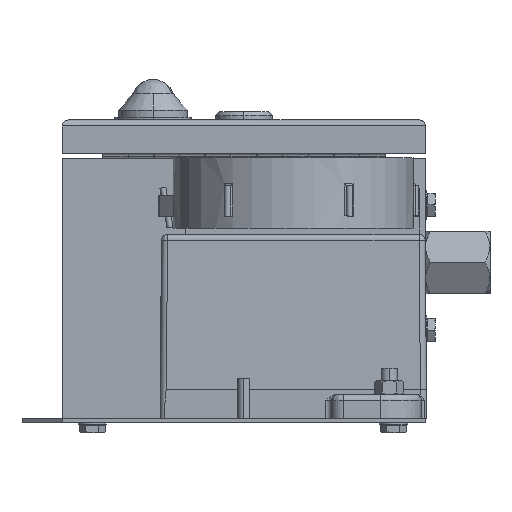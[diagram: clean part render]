
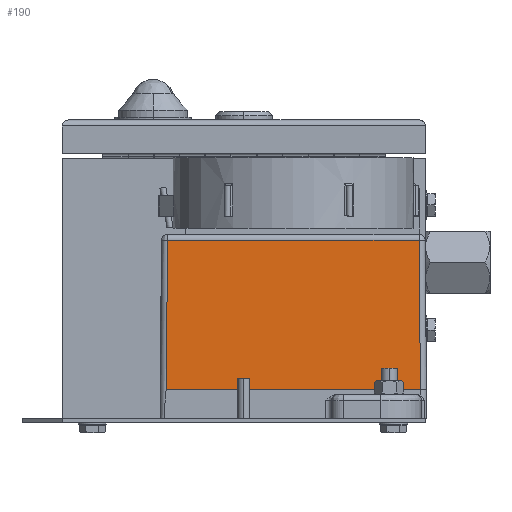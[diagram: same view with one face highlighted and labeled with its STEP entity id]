
A CAD part, left-side view. The second image highlights one B-rep face of the part: STEP entity #190.
In plain terms, the highlighted planar face has unit normal (-1, 0, 0.009).
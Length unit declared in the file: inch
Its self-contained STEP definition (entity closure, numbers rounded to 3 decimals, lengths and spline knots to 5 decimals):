
#190 = ADVANCED_FACE ( 'NONE', ( #6014 ), #7218, .T. ) ;
#513 = EDGE_CURVE ( 'NONE', #6301, #6302, #9156, .T. ) ;
#536 = EDGE_CURVE ( 'NONE', #6301, #6287, #9185, .T. ) ;
#538 = EDGE_CURVE ( 'NONE', #6311, #6302, #9180, .T. ) ;
#539 = EDGE_CURVE ( 'NONE', #6311, #6287, #9190, .T. ) ;
#1701 = ORIENTED_EDGE ( 'NONE', *, *, #539, .T. ) ;
#1702 = ORIENTED_EDGE ( 'NONE', *, *, #536, .F. ) ;
#1703 = ORIENTED_EDGE ( 'NONE', *, *, #513, .T. ) ;
#1704 = ORIENTED_EDGE ( 'NONE', *, *, #538, .F. ) ;
#4202 = AXIS2_PLACEMENT_3D ( 'NONE', #7215, #7221, #7222 ) ;
#5352 = EDGE_LOOP ( 'NONE', ( #1701, #1702, #1703, #1704 ) ) ;
#6014 = FACE_OUTER_BOUND ( 'NONE', #5352, .T. ) ;
#6287 = VERTEX_POINT ( 'NONE', #16772 ) ;
#6301 = VERTEX_POINT ( 'NONE', #16786 ) ;
#6302 = VERTEX_POINT ( 'NONE', #16787 ) ;
#6311 = VERTEX_POINT ( 'NONE', #16796 ) ;
#7215 = CARTESIAN_POINT ( 'NONE',  ( -5.66619, 5.85985, 3.89251 ) ) ;
#7218 = PLANE ( 'NONE',  #4202 ) ;
#7221 = DIRECTION ( 'NONE',  ( -1., 0., 0.009 ) ) ;
#7222 = DIRECTION ( 'NONE',  ( 0.009, 0., 1. ) ) ;
#8721 = CARTESIAN_POINT ( 'NONE',  ( -5.64075, 5.85985, 6.80692 ) ) ;
#8728 = DIRECTION ( 'NONE',  ( 0., 1., 0. ) ) ;
#8789 = CARTESIAN_POINT ( 'NONE',  ( -5.6662, 0.7811, 3.89148 ) ) ;
#8790 = DIRECTION ( 'NONE',  ( -0.009, -0.009, -1. ) ) ;
#8795 = CARTESIAN_POINT ( 'NONE',  ( -5.6662, 5.74176, 3.89148 ) ) ;
#8796 = DIRECTION ( 'NONE',  ( 0.009, -0.009, 1. ) ) ;
#8797 = CARTESIAN_POINT ( 'NONE',  ( -5.66619, 5.85985, 3.89251 ) ) ;
#8798 = DIRECTION ( 'NONE',  ( 0., -1., 0. ) ) ;
#9145 = VECTOR ( 'NONE', #8728, 39.37008 ) ;
#9156 = LINE ( 'NONE', #8721, #9145 ) ;
#9180 = LINE ( 'NONE', #8795, #9184 ) ;
#9184 = VECTOR ( 'NONE', #8796, 39.37008 ) ;
#9185 = LINE ( 'NONE', #8789, #9187 ) ;
#9187 = VECTOR ( 'NONE', #8790, 39.37008 ) ;
#9190 = LINE ( 'NONE', #8797, #9191 ) ;
#9191 = VECTOR ( 'NONE', #8798, 39.37008 ) ;
#16772 = CARTESIAN_POINT ( 'NONE',  ( -5.66619, 0.78111, 3.89251 ) ) ;
#16786 = CARTESIAN_POINT ( 'NONE',  ( -5.64075, 0.80654, 6.80692 ) ) ;
#16787 = CARTESIAN_POINT ( 'NONE',  ( -5.64075, 5.71631, 6.80692 ) ) ;
#16796 = CARTESIAN_POINT ( 'NONE',  ( -5.66619, 5.74175, 3.89251 ) ) ;
